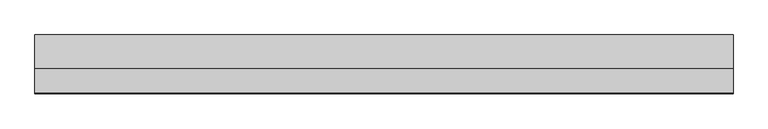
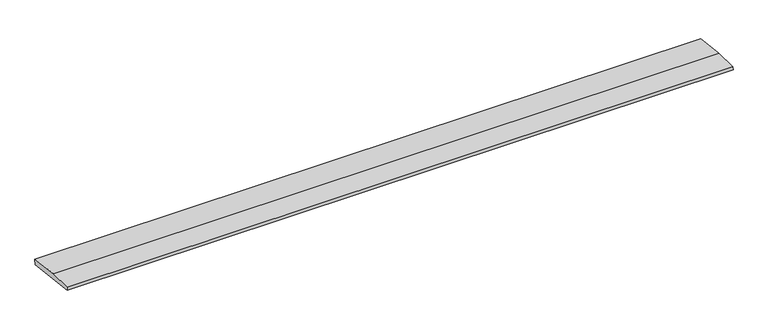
"""IFC4 building model written with IfcOpenShell, lengths in millimetres: beam geometry, weatherboad : weatherboad."""

import ifcopenshell
import ifcopenshell.guid

model = None  # the IFC model being written
_history = None  # IfcOwnerHistory: only IFC2X3 demands one
_inside = {}  # id of a spatial element -> (the spatial element, [elements in it])
_under = {}  # id of a project, library or spatial element -> (it, [spatial elements below it])
_declared = {}  # id of a project -> (the project, [libraries it declares])
_typed = {}  # id of a type object -> (the type object, [elements of that type])
_made_of = {}  # id of a material, layer set ... -> (it, [elements and type objects made of it])


def new_model(schema):
    """Start an empty IFC model of exactly this schema.

    Asked for "IFC4X3", IfcOpenShell would pick the latest addendum, in which some entities
    have other attributes; the version numbers below select the first issue.
    IFC2X3 requires an IfcOwnerHistory on every rooted entity: one is made here for all.
    """
    global model, _history
    if schema == "IFC4X3":
        model = ifcopenshell.file(schema_version=(4, 3, 0, 0))
    else:
        model = ifcopenshell.file(schema=schema)
    _inside.clear()
    _under.clear()
    _declared.clear()
    _typed.clear()
    _made_of.clear()
    _history = None
    if model.schema == "IFC2X3":
        org = make("IfcOrganization", Name="unknown")
        user = make(
            "IfcPersonAndOrganization",
            ThePerson=make("IfcPerson", FamilyName="unknown"),
            TheOrganization=org,
        )
        app = make(
            "IfcApplication",
            ApplicationDeveloper=org,
            Version="unknown",
            ApplicationFullName="unknown",
            ApplicationIdentifier="unknown",
        )
        _history = make(
            "IfcOwnerHistory",
            OwningUser=user,
            OwningApplication=app,
            ChangeAction="ADDED",
            CreationDate=0,
        )
    return model


def make(cls, **values):
    """One entity of the class cls with the attributes given. An attribute that is None is left unset."""
    return model.create_entity(
        cls, **{name: value for name, value in values.items() if value is not None}
    )


def rooted(cls, **values):
    """An entity with a GlobalId (a new one), such as an element, a storey or a relation."""
    return make(cls, GlobalId=ifcopenshell.guid.new(), OwnerHistory=_history, **values)


def si_unit(unit_type, name, prefix=None):
    """IfcSIUnit, for example si_unit("LENGTHUNIT", "METRE", prefix="MILLI")."""
    return make("IfcSIUnit", UnitType=unit_type, Prefix=prefix, Name=name)


def assignment(units):
    """IfcUnitAssignment: the units of a project."""
    return None if units is None else make("IfcUnitAssignment", Units=units)


def point(xyz):
    """IfcCartesianPoint."""
    return None if xyz is None else make("IfcCartesianPoint", Coordinates=xyz)


def direction(xyz):
    """IfcDirection."""
    return None if xyz is None else make("IfcDirection", DirectionRatios=xyz)


def frame(location, z_axis=None, x_axis=None):
    """IfcAxis2Placement3D, a coordinate frame: its origin and axes. An axis left out is left unset."""
    return make(
        "IfcAxis2Placement3D",
        Location=point(location),
        Axis=direction(z_axis),
        RefDirection=direction(x_axis),
    )


def origin():
    """The frame at (0, 0, 0) with its axes left unset."""
    return frame((0.0, 0.0, 0.0))


def place(relative_to, where):
    """IfcLocalPlacement: puts the frame where relative to a parent placement (None: the world)."""
    return make(
        "IfcLocalPlacement", PlacementRelTo=relative_to, RelativePlacement=where
    )


def context(
    kind, dimensions, precision=None, world=None, true_north=None, identifier=None
):
    """IfcGeometricRepresentationContext, for example the 3D "Model" context."""
    return make(
        "IfcGeometricRepresentationContext",
        ContextIdentifier=identifier,
        ContextType=kind,
        CoordinateSpaceDimension=dimensions,
        Precision=precision,
        WorldCoordinateSystem=world,
        TrueNorth=true_north,
    )


def project(units=None, contexts=None):
    """IfcProject with its units and contexts."""
    return rooted(
        "IfcProject",
        Name="project",
        RepresentationContexts=contexts,
        UnitsInContext=assignment(units),
    )


def spatial(cls, under=None, at=None, **own):
    """A site, building, storey or space (cls), placed at a placement, below another one or the project."""
    s = rooted(cls, ObjectPlacement=at, **own)
    if under is not None:
        _under.setdefault(under.id(), (under, []))[1].append(s)
    return s


def polyline(points):
    """IfcPolyline through the points."""
    return make("IfcPolyline", Points=[point(p) for p in points])


def outline(outer, holes=None, kind="AREA"):
    """IfcArbitraryClosedProfileDef: a profile drawn as a closed curve; with holes, ...WithVoids."""
    if holes is None:
        return make("IfcArbitraryClosedProfileDef", ProfileType=kind, OuterCurve=outer)
    return make(
        "IfcArbitraryProfileDefWithVoids",
        ProfileType=kind,
        OuterCurve=outer,
        InnerCurves=holes,
    )


def extrude(swept, where, along, depth):
    """IfcExtrudedAreaSolid: the profile swept, set in the frame where, extruded along a direction by depth."""
    return make(
        "IfcExtrudedAreaSolid",
        SweptArea=swept,
        Position=where,
        ExtrudedDirection=direction(along),
        Depth=depth,
    )


def shape(context_of_items, identifier, shape_type, items):
    """IfcShapeRepresentation: the items that make up one representation, for example the "Body"."""
    return make(
        "IfcShapeRepresentation",
        ContextOfItems=context_of_items,
        RepresentationIdentifier=identifier,
        RepresentationType=shape_type,
        Items=items,
    )


def source(mapping_origin, context_of_items, identifier, shape_type, items):
    """IfcRepresentationMap: a shape defined once, which mapped items show again and again."""
    return make(
        "IfcRepresentationMap",
        MappingOrigin=mapping_origin,
        MappedRepresentation=shape(context_of_items, identifier, shape_type, items),
    )


def transform(
    local_origin,
    x_axis=None,
    y_axis=None,
    z_axis=None,
    scale=None,
    scale2=None,
    scale3=None,
    uniform=True,
):
    """IfcCartesianTransformationOperator3D, or its non-uniform kind. x_axis, y_axis, z_axis: its Axis1, 2, 3."""
    if uniform:
        return make(
            "IfcCartesianTransformationOperator3D",
            Axis1=direction(x_axis),
            Axis2=direction(y_axis),
            LocalOrigin=point(local_origin),
            Scale=scale,
            Axis3=direction(z_axis),
        )
    return make(
        "IfcCartesianTransformationOperator3DnonUniform",
        Axis1=direction(x_axis),
        Axis2=direction(y_axis),
        LocalOrigin=point(local_origin),
        Scale=scale,
        Axis3=direction(z_axis),
        Scale2=scale2,
        Scale3=scale3,
    )


def mapped(mapping_source, mapping_target):
    """IfcMappedItem: shows the shape of a source again, moved by a transform."""
    return make(
        "IfcMappedItem", MappingSource=mapping_source, MappingTarget=mapping_target
    )


def made_of(thing, what):
    """Note that an element or type object is made of a material, layer set ...; save() writes the relation."""
    if what is not None:
        _made_of.setdefault(what.id(), (what, []))[1].append(thing)
    return thing


def element(
    cls,
    number,
    at=None,
    inside=None,
    cuts=None,
    type_object=None,
    material=None,
    context=None,
    identifier="Body",
    shape_type=None,
    held_by="IfcProductDefinitionShape",
    body=None,
    shapes=None,
    **own,
):
    """One element of the class cls, such as IfcWall. Its Tag is "e" and its number.

    at: its placement. inside: the storey or other place that contains it. cuts: it is an
    opening in that element (IfcRelVoidsElement). A single representation is given by context,
    identifier, shape_type and body (its items); several are given by shapes. held_by: the class
    of the entity that holds the representations. save() writes the other relations.
    """
    e = rooted(cls, Tag="e%d" % number, ObjectPlacement=at, **own)
    if body is not None:
        shapes = [shape(context, identifier, shape_type, body)]
    if shapes is not None:
        e.Representation = make(held_by, Representations=shapes)
    if inside is not None:
        _inside.setdefault(inside.id(), (inside, []))[1].append(e)
    if cuts is not None:
        rooted(
            "IfcRelVoidsElement", RelatingBuildingElement=cuts, RelatedOpeningElement=e
        )
    if type_object is not None:
        _typed.setdefault(type_object.id(), (type_object, []))[1].append(e)
    return made_of(e, material)


def aggregate(whole, parts):
    """IfcRelAggregates: a whole, such as a stair, and the parts it consists of."""
    return rooted("IfcRelAggregates", RelatingObject=whole, RelatedObjects=parts)


def save(model, path):
    """Write the relations noted so far, then the file.

    IfcRelAggregates (storeys below a building ...), IfcRelContainedInSpatialStructure (elements
    in a storey), IfcRelDefinesByType, IfcRelAssociatesMaterial and IfcRelDeclares: one each for
    every whole, place, type object, material and project.
    """
    for whole, parts in _under.values():
        aggregate(whole, parts)
    for where, things in _inside.values():
        rooted(
            "IfcRelContainedInSpatialStructure",
            RelatedElements=things,
            RelatingStructure=where,
        )
    for kind, things in _typed.values():
        rooted("IfcRelDefinesByType", RelatedObjects=things, RelatingType=kind)
    for what, things in _made_of.values():
        rooted("IfcRelAssociatesMaterial", RelatedObjects=things, RelatingMaterial=what)
    for by, libraries in _declared.values():
        rooted("IfcRelDeclares", RelatingContext=by, RelatedDefinitions=libraries)
    model.write(path)


def beam_7c082024(model_context):
    return source(origin(), model_context, "Body", "SweptSolid", [
        extrude(outline(polyline([(0.0, -9.143159), (1.1226388, 0.0), (79.0749747, 0.0), (180.9387048, -12.5072934), (178.6231873, -31.3656703), (0.0, -9.143159)])), frame((-1071.8664469, 0.0, 0.0), z_axis=(1.0, 0.0, 0.0), x_axis=(0.0, 1.0, 0.0)), (0.0, 0.0, 1.0), 2143.7328938),
    ])


if __name__ == "__main__":
    model = new_model("IFC4")
    model_context = context("Model", 3, world=origin())
    ifc_project = project(units=[si_unit("LENGTHUNIT", "METRE", prefix="MILLI")], contexts=[model_context])
    site = spatial("IfcSite", under=ifc_project)
    building = spatial("IfcBuilding", under=site)
    placement = place(None, origin())
    beam_shape = beam_7c082024(model_context)
    element("IfcBeam", 1, ObjectType="weatherboad : weatherboad", at=placement, inside=building, context=model_context, shape_type="MappedRepresentation", body=[
        mapped(beam_shape, transform((0.0, 0.0, 0.0), x_axis=(1.0, 0.0, 0.0), y_axis=(0.0, 1.0, 0.0), z_axis=(0.0, 0.0, 1.0))),
    ])
    save(model, "model.ifc")
